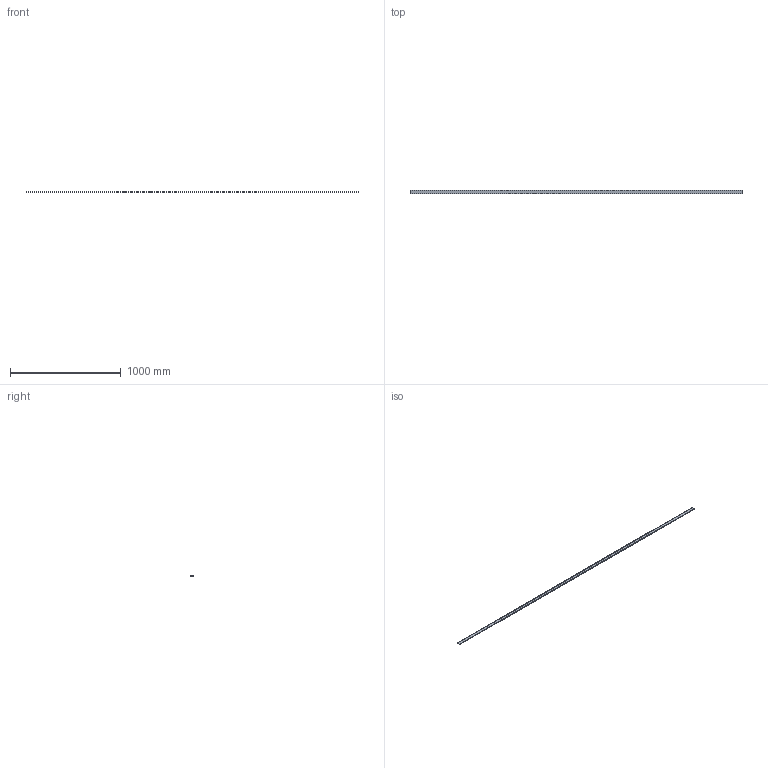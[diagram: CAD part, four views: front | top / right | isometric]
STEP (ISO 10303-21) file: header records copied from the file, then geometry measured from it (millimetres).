
FILE_DESCRIPTION (( 'STEP AP214' ), '1' );
FILE_NAME ('FABER - FGRRF 3x33.step', '2017-04-06T07:46:06', ( '' ), ( '' ), 'SwSTEP 2.0', 'SolidWorks 2016', '' );
FILE_SCHEMA (( 'AUTOMOTIVE_DESIGN' ));
Length unit declared in the file: millimetre
Products named in the file (1): FABER - FGRRF 3x33
Bounding box: 3000 x 32 x 6.5 mm (x, y, z)
Volume: 246624.6 mm3; surface area: 260466.2 mm2
Topology: 1 solids, 1 shells, 20 faces, 54 edges, 36 vertices
Faces by surface type: plane 14, cylinder 6
Entity records: 664 total; most frequent: CARTESIAN_POINT 111, DIRECTION 108, ORIENTED_EDGE 108, EDGE_CURVE 54, LINE 42, VECTOR 42, VERTEX_POINT 36, AXIS2_PLACEMENT_3D 33
